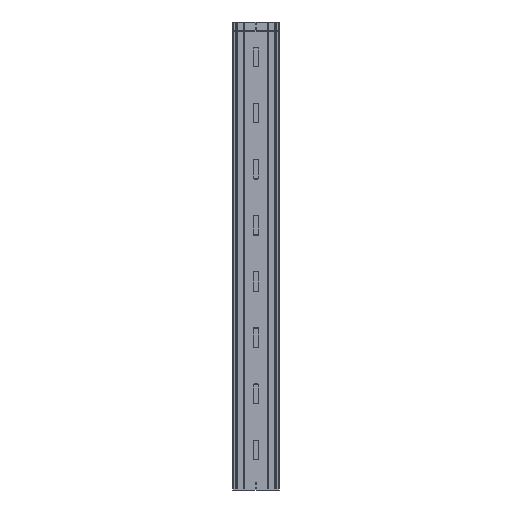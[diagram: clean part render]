
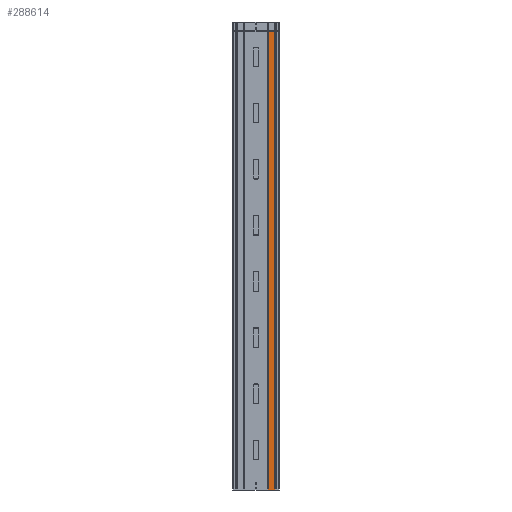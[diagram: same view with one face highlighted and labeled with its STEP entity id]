
A CAD part, front view. The second image highlights one B-rep face of the part: STEP entity #288614.
In plain terms, the highlighted planar face has unit normal (0, -1, 0).
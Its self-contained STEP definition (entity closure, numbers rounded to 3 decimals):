
#9765 = EDGE_LOOP ( 'NONE', ( #153864, #194928, #107229, #74959 ) ) ;
#35140 = VECTOR ( 'NONE', #177242, 1000. ) ;
#41161 = VECTOR ( 'NONE', #139445, 1000. ) ;
#66846 = CARTESIAN_POINT ( 'NONE',  ( 79.456, 0., 0. ) ) ;
#71176 = LINE ( 'NONE', #74436, #41161 ) ;
#74436 = CARTESIAN_POINT ( 'NONE',  ( 120.544, 0., -2941.5 ) ) ;
#74959 = ORIENTED_EDGE ( 'NONE', *, *, #88594, .T. ) ;
#81504 = AXIS2_PLACEMENT_3D ( 'NONE', #210573, #106559, #237007 ) ;
#83364 = CARTESIAN_POINT ( 'NONE',  ( 79.456, 0., -2941.5 ) ) ;
#86660 = FACE_OUTER_BOUND ( 'NONE', #9765, .T. ) ;
#87354 = DIRECTION ( 'NONE',  ( 0., 0., 1. ) ) ;
#88479 = VERTEX_POINT ( 'NONE', #83364 ) ;
#88594 = EDGE_CURVE ( 'NONE', #279950, #209367, #71176, .T. ) ;
#93815 = LINE ( 'NONE', #212908, #124468 ) ;
#104674 = B_SPLINE_CURVE_WITH_KNOTS ( 'NONE', 3,
 ( #66846, #270009, #283827, #278939 ),
 .UNSPECIFIED., .F., .F.,
 ( 4, 4 ),
 ( 0., 1. ),
 .UNSPECIFIED. ) ;
#106559 = DIRECTION ( 'NONE',  ( 0., -1., 0. ) ) ;
#107229 = ORIENTED_EDGE ( 'NONE', *, *, #314454, .T. ) ;
#124468 = VECTOR ( 'NONE', #87354, 1000. ) ;
#139445 = DIRECTION ( 'NONE',  ( 0., 0., 1. ) ) ;
#153864 = ORIENTED_EDGE ( 'NONE', *, *, #202668, .F. ) ;
#171444 = VERTEX_POINT ( 'NONE', #267014 ) ;
#175339 = CARTESIAN_POINT ( 'NONE',  ( 120.544, 0., -2941.5 ) ) ;
#177242 = DIRECTION ( 'NONE',  ( 1., 0., 0. ) ) ;
#194928 = ORIENTED_EDGE ( 'NONE', *, *, #298935, .F. ) ;
#202668 = EDGE_CURVE ( 'NONE', #171444, #209367, #104674, .T. ) ;
#209367 = VERTEX_POINT ( 'NONE', #324361 ) ;
#210573 = CARTESIAN_POINT ( 'NONE',  ( 120.544, 0., -2941.5 ) ) ;
#212908 = CARTESIAN_POINT ( 'NONE',  ( 79.456, 0., -2941.5 ) ) ;
#237007 = DIRECTION ( 'NONE',  ( 1., 0., 0. ) ) ;
#267014 = CARTESIAN_POINT ( 'NONE',  ( 79.456, 0., 0. ) ) ;
#270009 = CARTESIAN_POINT ( 'NONE',  ( 93.152, 0., 0. ) ) ;
#278939 = CARTESIAN_POINT ( 'NONE',  ( 120.544, 0., 0. ) ) ;
#279950 = VERTEX_POINT ( 'NONE', #175339 ) ;
#283827 = CARTESIAN_POINT ( 'NONE',  ( 106.848, 0., 0. ) ) ;
#288614 = ADVANCED_FACE ( 'NONE', ( #86660 ), #306461, .T. ) ;
#297928 = CARTESIAN_POINT ( 'NONE',  ( 120.544, 0., -2941.5 ) ) ;
#298935 = EDGE_CURVE ( 'NONE', #88479, #171444, #93815, .T. ) ;
#302817 = LINE ( 'NONE', #297928, #35140 ) ;
#306461 = PLANE ( 'NONE',  #81504 ) ;
#314454 = EDGE_CURVE ( 'NONE', #88479, #279950, #302817, .T. ) ;
#324361 = CARTESIAN_POINT ( 'NONE',  ( 120.544, 0., 0. ) ) ;
